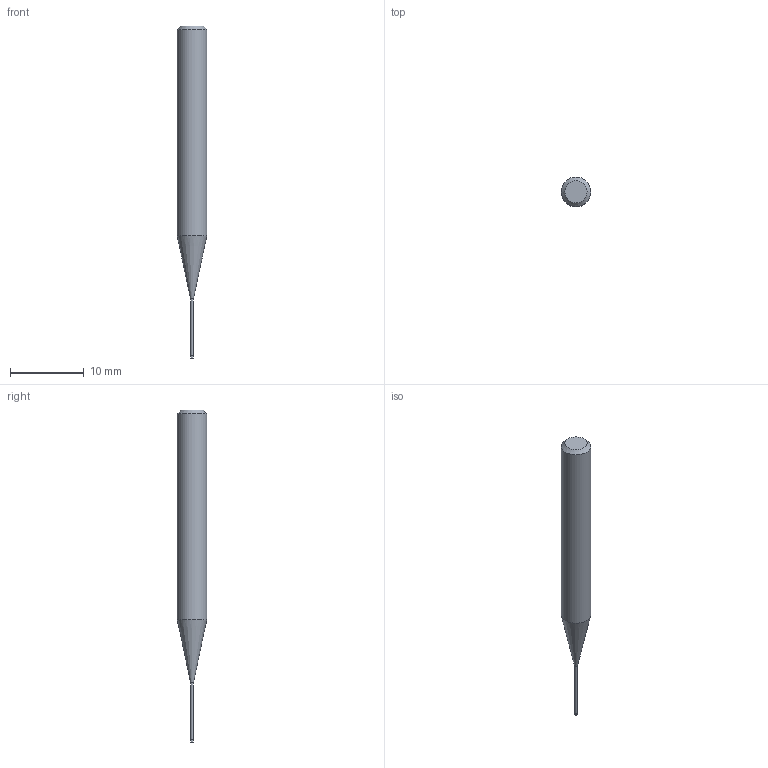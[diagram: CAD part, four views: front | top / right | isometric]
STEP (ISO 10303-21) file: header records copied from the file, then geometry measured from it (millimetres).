
FILE_DESCRIPTION((''),'2;1');
FILE_NAME('C:\Users\nsx150\AppData\Local\Temp\Mastercam 2021\RJ5U8K7RMU\TEMP.step','2021-04-21T16:39:55',(''),(''),'STEP Write','Mastercam 2021 ... CNC Software, Inc.','');
FILE_SCHEMA(('AUTOMOTIVE_DESIGN'));
Length unit declared in the file: millimetre
Products named in the file (1): None
Bounding box: 4 x 4 x 45 mm (x, y, z)
Volume: 396.5 mm3; surface area: 435.8 mm2
Topology: 2 solids, 2 shells, 9 faces, 12 edges, 7 vertices
Faces by surface type: plane 4, cylinder 3, cone 2
Full cylindrical faces by diameter (mm): 0.37 x1, 0.4 x1, 4 x1
Entity records: 211 total; most frequent: DIRECTION 36, CARTESIAN_POINT 25, AXIS2_PLACEMENT_3D 18, ORIENTED_EDGE 14, EDGE_LOOP 14, STYLED_ITEM 12, ADVANCED_FACE 9, FACE_BOUND 8
